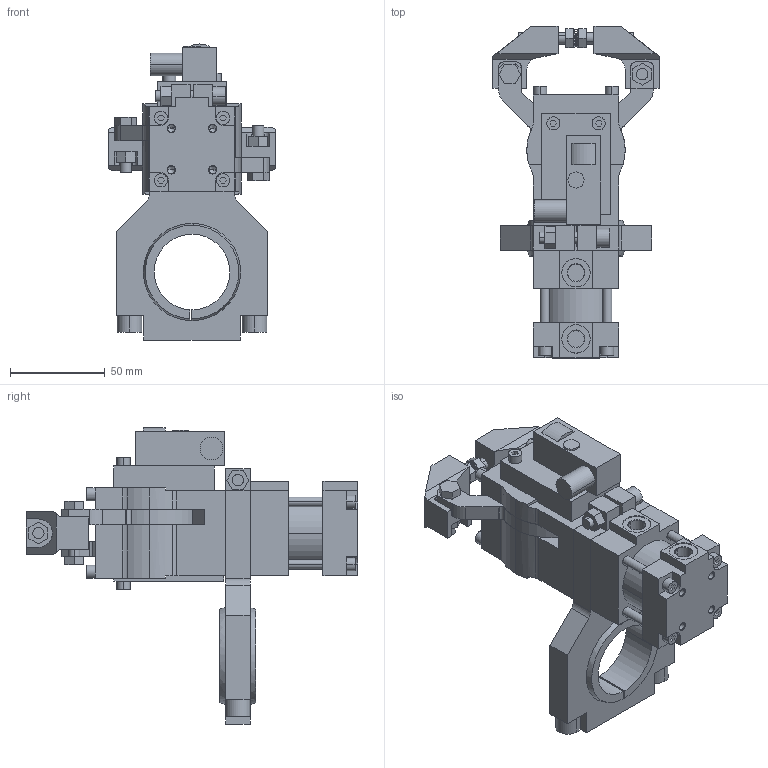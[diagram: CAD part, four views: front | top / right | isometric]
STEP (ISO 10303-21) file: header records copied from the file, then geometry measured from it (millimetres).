
FILE_DESCRIPTION (( 'STEP AP214' ), '1' );
FILE_NAME ('b32_b1sx_pla___a_b40.STEP', '2018-05-08T12:55:41', ( 'vepadmin' ), ( 'Hewlett-Packard Company' ), 'SwSTEP 2.0', 'SolidWorks 2018', '' );
FILE_SCHEMA (( 'AUTOMOTIVE_DESIGN' ));
Length unit declared in the file: millimetre
Products named in the file (11): tassello_b1_b32b; calotta_sferica_40_b32; piedino_zigrinato_M6x25; gruppo_cilindro_b32; riparo_micro_b32; blocchetto_p&f_90; scatola_micro_b32; attacco_b40_b32; leva_b32b; gruppo_montante_b32b; b32_b1sx_pla___a_b40
Assembly tree (13 placements, depth 2):
  b32_b1sx_pla___a_b40
    gruppo_montante_b32b
    leva_b32b  x2
    attacco_b40_b32
    scatola_micro_b32
    blocchetto_p&f_90
    riparo_micro_b32
    gruppo_cilindro_b32
    piedino_zigrinato_M6x25  x2
    calotta_sferica_40_b32
    tassello_b1_b32b  x2
Bounding box: 88 x 175.5 x 156.6 mm (x, y, z)
Volume: 400979.2 mm3; surface area: 116770.7 mm2
Topology: 13 solids, 13 shells, 862 faces, 2117 edges, 1379 vertices
Faces by surface type: plane 615, cylinder 221, cone 22, sphere 4
Entity records: 19686 total; most frequent: CARTESIAN_POINT 3474, DIRECTION 3259, ORIENTED_EDGE 3212, EDGE_CURVE 1606, VECTOR 1195, LINE 1195, VERTEX_POINT 1051, AXIS2_PLACEMENT_3D 1032
